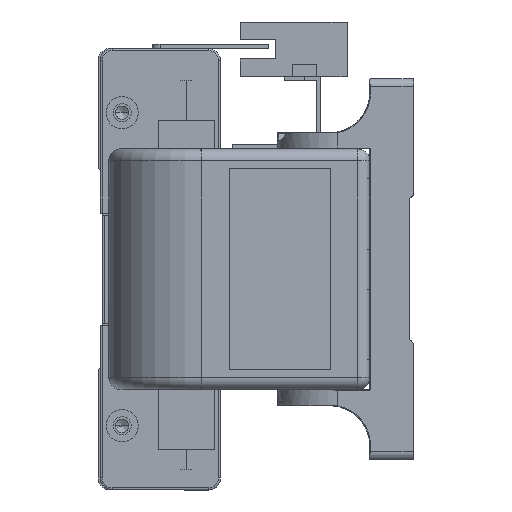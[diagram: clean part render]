
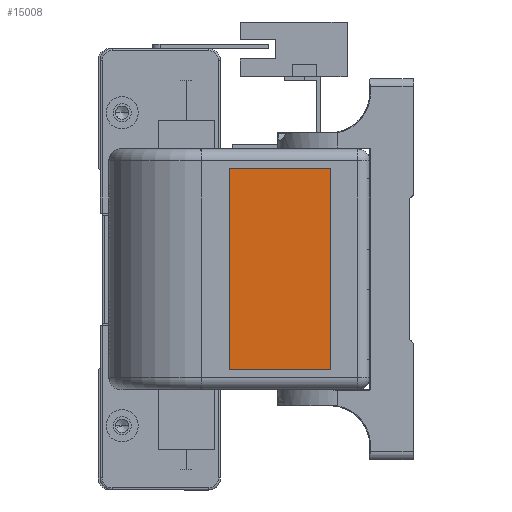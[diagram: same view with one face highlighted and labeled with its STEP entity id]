
A CAD part, left-side view. The second image highlights one B-rep face of the part: STEP entity #15008.
In plain terms, the highlighted planar face has unit normal (-1, 0, 0) as drawn and (1, 0, 0) by its records, which use the part's own axes.
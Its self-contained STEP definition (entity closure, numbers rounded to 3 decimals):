
#1587 = CARTESIAN_POINT ( 'NONE',  ( 23.3, 35., 4.898 ) ) ;
#2182 = CARTESIAN_POINT ( 'NONE',  ( 23.3, 35., 55. ) ) ;
#3304 = CARTESIAN_POINT ( 'NONE',  ( 23.3, 0., 0. ) ) ;
#5679 = DIRECTION ( 'NONE',  ( 0., 0., -1. ) ) ;
#5767 = EDGE_CURVE ( 'NONE', #12222, #25290, #18032, .T. ) ;
#6606 = EDGE_CURVE ( 'NONE', #25290, #11030, #13908, .T. ) ;
#10005 = CARTESIAN_POINT ( 'NONE',  ( 23.3, 9.83, 55. ) ) ;
#11030 = VERTEX_POINT ( 'NONE', #18637 ) ;
#12034 = VERTEX_POINT ( 'NONE', #1587 ) ;
#12178 = EDGE_CURVE ( 'NONE', #11030, #12034, #22353, .T. ) ;
#12222 = VERTEX_POINT ( 'NONE', #13944 ) ;
#12710 = VECTOR ( 'NONE', #25808, 1000. ) ;
#13071 = EDGE_CURVE ( 'NONE', #12034, #12222, #13435, .T. ) ;
#13435 = LINE ( 'NONE', #2182, #12710 ) ;
#13908 = LINE ( 'NONE', #17661, #25715 ) ;
#13944 = CARTESIAN_POINT ( 'NONE',  ( 23.3, 35., 55. ) ) ;
#14971 = PLANE ( 'NONE',  #19964 ) ;
#15008 = ADVANCED_FACE ( 'N', ( #29595 ), #14971, .T. ) ;
#15299 = DIRECTION ( 'NONE',  ( 0., 0., -1. ) ) ;
#17661 = CARTESIAN_POINT ( 'NONE',  ( 23.3, 9.83, 55. ) ) ;
#18032 = LINE ( 'NONE', #26174, #29855 ) ;
#18406 = ORIENTED_EDGE ( 'NONE', *, *, #6606, .T. ) ;
#18637 = CARTESIAN_POINT ( 'NONE',  ( 23.3, 9.83, 4.898 ) ) ;
#19608 = EDGE_LOOP ( 'NONE', ( #21257, #18406, #27069, #30128 ) ) ;
#19796 = DIRECTION ( 'NONE',  ( 1., 0., 0. ) ) ;
#19964 = AXIS2_PLACEMENT_3D ( 'NONE', #3304, #19796, #5679 ) ;
#21257 = ORIENTED_EDGE ( 'NONE', *, *, #5767, .T. ) ;
#22353 = LINE ( 'NONE', #25589, #28632 ) ;
#25290 = VERTEX_POINT ( 'NONE', #10005 ) ;
#25589 = CARTESIAN_POINT ( 'NONE',  ( 23.3, 35., 4.898 ) ) ;
#25715 = VECTOR ( 'NONE', #15299, 1000. ) ;
#25808 = DIRECTION ( 'NONE',  ( 0., 0., 1. ) ) ;
#26174 = CARTESIAN_POINT ( 'NONE',  ( 23.3, 35., 55. ) ) ;
#27069 = ORIENTED_EDGE ( 'NONE', *, *, #12178, .T. ) ;
#28539 = DIRECTION ( 'NONE',  ( 0., -1., 0. ) ) ;
#28632 = VECTOR ( 'NONE', #30273, 1000. ) ;
#29595 = FACE_OUTER_BOUND ( 'NONE', #19608, .T. ) ;
#29855 = VECTOR ( 'NONE', #28539, 1000. ) ;
#30128 = ORIENTED_EDGE ( 'NONE', *, *, #13071, .T. ) ;
#30273 = DIRECTION ( 'NONE',  ( 0., 1., 0. ) ) ;
